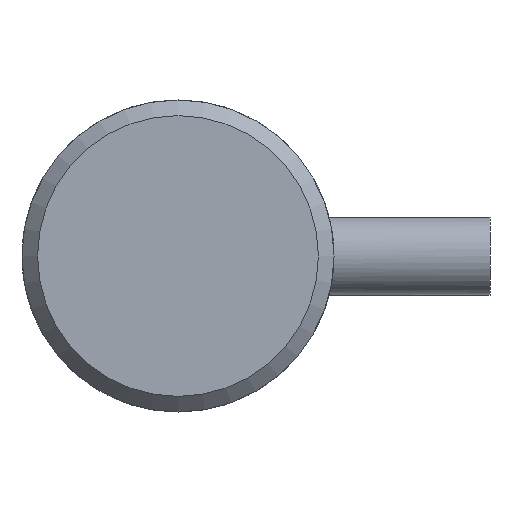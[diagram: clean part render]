
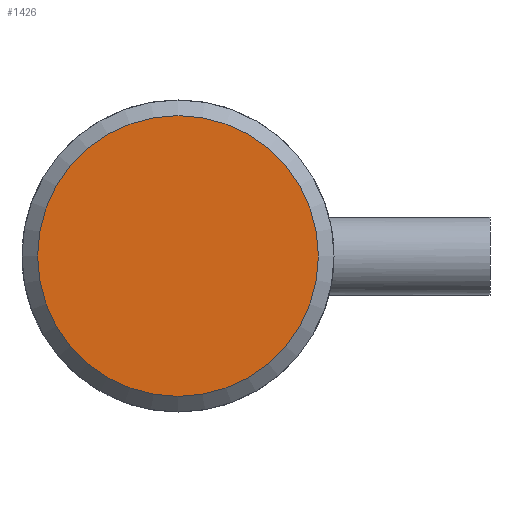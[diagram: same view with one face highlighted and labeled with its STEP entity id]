
A CAD part, left-side view. The second image highlights one B-rep face of the part: STEP entity #1426.
In plain terms, the highlighted planar face has unit normal (-1, 0, 0).
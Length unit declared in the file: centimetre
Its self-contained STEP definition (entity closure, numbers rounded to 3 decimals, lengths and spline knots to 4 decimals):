
#231=PLANE('',#1528);
#587=VERTEX_POINT('',#2848);
#645=CIRCLE('',#1527,0.45);
#796=EDGE_CURVE('',#587,#587,#645,.T.);
#1075=ORIENTED_EDGE('',*,*,#796,.F.);
#1277=EDGE_LOOP('',(#1075));
#1354=FACE_BOUND('',#1277,.T.);
#1426=ADVANCED_FACE('',(#1354),#231,.T.);
#1527=AXIS2_PLACEMENT_3D('',#2847,#1761,#1762);
#1528=AXIS2_PLACEMENT_3D('',#2849,#1763,$);
#1761=DIRECTION('',(1.,0.,0.));
#1762=DIRECTION('',(0.,0.,0.45));
#1763=DIRECTION('',(-1.,0.,0.));
#2847=CARTESIAN_POINT('',(0.,0.,0.));
#2848=CARTESIAN_POINT('',(0.,0.,-0.45));
#2849=CARTESIAN_POINT('',(0.,0.,-0.25));
